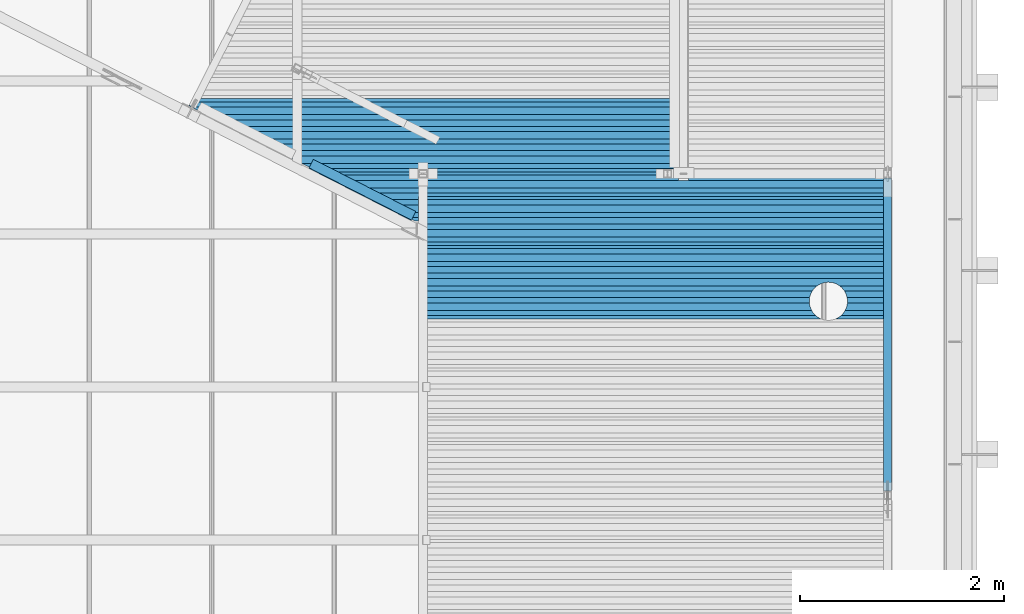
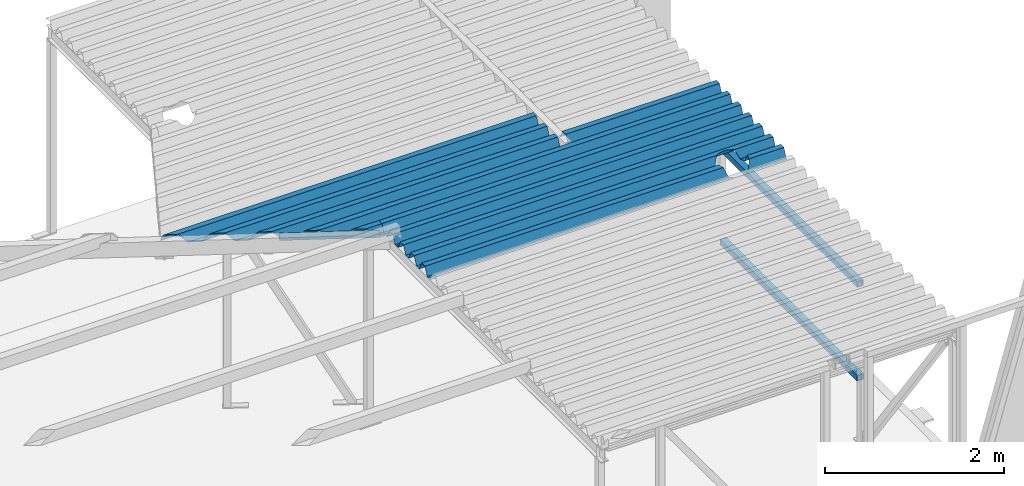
# One storey, part 9 of 30: 7 beams.
"""IFC2X3 building model written with IfcOpenShell, lengths in millimetres."""

from ifc_helpers import new_model, entity, si_unit, converted_unit, derived_unit, direction, frame, origin_with_axes, place, context, subcontext, project, spatial, faceted_brep, material, type_object, element, save


model = new_model("IFC2X3")

# Units and contexts
model_context = context("Model", 3, precision=0.01, world=frame((0.0, 4.29681676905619e-09, 0.0)), true_north=direction((4.01073788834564e-13, 1.0)))
plan_context = context("Plan", 3, precision=0.01, world=frame((0.0, 4.29681676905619e-09, 0.0)), true_north=direction((4.01073788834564e-13, 1.0)))
body_context = subcontext(model_context, "Body", "Model", "MODEL_VIEW")
ifc_project = project(units=[converted_unit("PLANEANGLEUNIT", "DEGREE", entity("IfcPositiveLengthMeasure", 0.0174532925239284), si_unit("PLANEANGLEUNIT", "RADIAN"), dimensions=[0, 0, 0, 0, 0, 0, 0]), si_unit("AREAUNIT", "SQUARE_METRE"), si_unit("LENGTHUNIT", "METRE", prefix="MILLI"), si_unit("MASSUNIT", "GRAM", prefix="KILO"), si_unit("POWERUNIT", "WATT"), si_unit("PRESSUREUNIT", "PASCAL"), si_unit("FORCEUNIT", "NEWTON", prefix="KILO"), si_unit("ELECTRICVOLTAGEUNIT", "VOLT"), si_unit("ELECTRICCURRENTUNIT", "AMPERE"), si_unit("THERMODYNAMICTEMPERATUREUNIT", "DEGREE_CELSIUS"), si_unit("TIMEUNIT", "SECOND"), si_unit("VOLUMEUNIT", "CUBIC_METRE"), derived_unit("LINEARVELOCITYUNIT", [(si_unit("LENGTHUNIT", "METRE"), 1), (si_unit("TIMEUNIT", "SECOND"), -1)]), derived_unit("VOLUMETRICFLOWRATEUNIT", [(si_unit("VOLUMEUNIT", "CUBIC_METRE"), 1), (si_unit("TIMEUNIT", "SECOND"), -1)]), derived_unit("THERMALTRANSMITTANCEUNIT", [(si_unit("POWERUNIT", "WATT"), 1), (si_unit("THERMODYNAMICTEMPERATUREUNIT", "KELVIN"), -1), (si_unit("AREAUNIT", "SQUARE_METRE"), -1)]), derived_unit("SOUNDPRESSUREUNIT", [(si_unit("PRESSUREUNIT", "PASCAL"), 1)])], contexts=[model_context, plan_context])

# Site, building, storey
site_placement = place(None, frame((0.0, -4.29681676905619e-09, 0.0), z_axis=(0.0, 0.0, 1.0), x_axis=(1.0, 0.0, 0.0)))
site = spatial("IfcSite", under=ifc_project, at=site_placement, Name="Gardermoen", CompositionType="ELEMENT")
building_placement = place(site_placement, frame((0.0, 4.29681676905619e-09, 0.0), z_axis=(0.0, 0.0, 1.0), x_axis=(1.0, 0.0, 0.0)))
building = spatial("IfcBuilding", under=site, at=building_placement, Name="TI", CompositionType="ELEMENT")
storey_placement = place(building_placement, origin_with_axes())
storey = spatial("IfcBuildingStorey", under=building, at=storey_placement, Name="F", CompositionType="ELEMENT", Elevation=0.0)

# Beams
ifc_material_1 = material(Name="STEEL/S355J2H")
beam_type_1 = type_object("IfcBeamType", Name="PLANNJA111", PredefinedType="NOTDEFINED")
beam_1_placement = place(storey_placement, frame((604290.830439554, 694827.497611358, 213755.499847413), z_axis=(0.0, 0.0, 1.0), x_axis=(1.0, 0.0, 0.0)))
element("IfcBeam", 1, at=beam_1_placement, inside=storey, type_object=beam_type_1, material=ifc_material_1, Name="STÅLBJELKE", ObjectType="PLANNJA111", context=body_context, shape_type="Brep", body=[
    faceted_brep([(4948.81135349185, 359.999999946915, -55.7499999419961), (4948.8113534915, 327.499999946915, -55.7499999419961), (170.115382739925, 327.499999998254, -55.7499999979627), (186.674957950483, 359.999999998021, -55.7499999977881), (4948.81135349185, 359.999999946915, -54.7499999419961), (186.674957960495, 359.999999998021, -54.7499999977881), (4948.81135349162, 328.133911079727, -54.7499999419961), (170.438376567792, 328.13391113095, -54.7499999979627), (4948.81135348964, 275.999999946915, 55.7500000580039), (4948.81135348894, 203.999999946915, 55.7500000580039), (4948.81135348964, 151.866088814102, -54.7499999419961), (4948.81135348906, 88.1339110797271, -54.7499999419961), (4948.81135348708, 35.9999999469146, 55.7500000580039), (4948.81135348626, -36.0000000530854, 55.7500000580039), (4948.81135348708, -88.1339111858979, -54.7499999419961), (4948.81135348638, -151.866088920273, -54.7499999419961), (4948.81135348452, -204.000000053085, 55.7500000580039), (4948.8113534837, -276.000000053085, 55.7500000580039), (4948.81135348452, -328.133911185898, -54.7499999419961), (4948.81135348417, -360.000000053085, -54.7499999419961), (4948.81135348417, -360.000000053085, -55.7499999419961), (4948.81135348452, -327.500000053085, -55.7499999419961), (4948.81135348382, -275.366088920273, 54.7500000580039), (4948.81135348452, -204.633911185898, 54.7500000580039), (4948.81135348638, -152.500000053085, -55.7499999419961), (4948.81135348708, -87.5000000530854, -55.7499999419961), (4948.81135348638, -35.3660889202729, 54.7500000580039), (4948.81135348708, 35.3660888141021, 54.7500000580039), (4948.81135348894, 87.4999999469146, -55.7499999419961), (4948.81135348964, 152.499999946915, -55.7499999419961), (4948.81135348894, 204.633911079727, 54.7500000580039), (4948.81135348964, 275.366088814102, 54.7500000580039), (1424.4019687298, -360.000000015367, -54.7499999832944), (1424.40196871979, -360.000000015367, -55.7499999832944), (1360.61713147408, -327.500000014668, -55.7499999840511), (1258.29857760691, -275.366088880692, 54.7500000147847), (1119.47887161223, -204.633911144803, 54.7500000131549), (1017.16031553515, -152.500000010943, -55.7499999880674), (889.590641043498, -87.5000000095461, -55.7499999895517), (787.27208717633, -35.3660888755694, 54.750000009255), (648.452381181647, 35.3660888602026, 54.7500000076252), (546.133825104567, 87.4999999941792, -55.7499999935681), (418.564150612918, 152.49999999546, -55.7499999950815), (316.24559674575, 204.63391112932, 54.7500000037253), (177.425890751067, 275.366088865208, 54.7500000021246), (150.533525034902, 289.068434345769, 25.7073070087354), (150.533525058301, 289.068434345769, 28.050908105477), (176.181770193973, 275.999999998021, 55.7500000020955), (317.4897173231, 203.999999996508, 55.7500000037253), (419.808271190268, 151.866088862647, -54.7499999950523), (544.889704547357, 88.1339111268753, -54.7499999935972), (647.208260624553, 35.9999999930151, 55.7500000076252), (788.516207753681, -36.0000000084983, 55.7500000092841), (890.834761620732, -88.1339111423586, -54.7499999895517), (1015.91619497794, -151.866088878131, -54.7499999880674), (1118.23475105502, -204.000000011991, 55.7500000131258), (1259.54269818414, -276.000000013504, 55.7500000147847), (1361.86125205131, -328.133911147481, -54.749999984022)], [[[0, 1, 2, 3]], [[4, 0, 3, 5]], [[6, 4, 5, 7]], [[8, 9, 10, 11, 12, 13, 14, 15, 16, 17, 18, 19, 20, 21, 22, 23, 24, 25, 26, 27, 28, 29, 30, 31, 1, 0, 4, 6]], [[20, 19, 32, 33]], [[21, 20, 33, 34]], [[22, 21, 34, 35]], [[23, 22, 35, 36]], [[24, 23, 36, 37]], [[25, 24, 37, 38]], [[26, 25, 38, 39]], [[27, 26, 39, 40]], [[28, 27, 40, 41]], [[29, 28, 41, 42]], [[30, 29, 42, 43]], [[31, 30, 43, 44]], [[2, 1, 31, 44, 45]], [[7, 5, 3, 2, 45, 46]], [[8, 6, 7, 46, 47]], [[9, 8, 47, 48]], [[10, 9, 48, 49]], [[11, 10, 49, 50]], [[12, 11, 50, 51]], [[13, 12, 51, 52]], [[14, 13, 52, 53]], [[15, 14, 53, 54]], [[16, 15, 54, 55]], [[17, 16, 55, 56]], [[18, 17, 56, 57]], [[19, 18, 57, 32]], [[56, 55, 54, 53, 52, 51, 50, 49, 48, 47, 46, 45, 44, 43, 42, 41, 40, 39, 38, 37, 36, 35, 34, 33, 32, 57]]]),
])
beam_2_placement = place(storey_placement, frame((605190.83043949, 694347.497611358, 213755.499847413), z_axis=(0.0, 0.0, 1.0), x_axis=(1.0, 0.0, 0.0)))
element("IfcBeam", 2, at=beam_2_placement, inside=storey, type_object=beam_type_1, material=ifc_material_1, Name="STÅLBJELKE", ObjectType="PLANNJA111", context=body_context, shape_type="Brep", body=[
    faceted_brep([(4048.81126292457, 35.3660973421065, 55.7500000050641), (4048.81126291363, 35.3660888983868, 54.7500000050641), (4048.81126058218, 87.5000000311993, -55.7499999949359), (4048.81125919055, 152.500000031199, -55.7499999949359), (4048.81125928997, 204.633911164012, 54.7500000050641), (4048.81125777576, 275.366088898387, 54.7500000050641), (4048.81125544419, 327.500000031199, -55.7499999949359), (4048.81125474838, 360.000000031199, -55.7499999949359), (4048.81125475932, 360.000000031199, -54.7499999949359), (4048.81125544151, 328.133911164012, -54.7499999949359), (4048.8112577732, 276.000000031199, 55.7500000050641), (4048.81125931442, 204.000000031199, 55.7500000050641), (4048.81125921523, 151.866088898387, -54.7499999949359), (4048.8112605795, 88.1339111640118, -54.7499999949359), (4048.81126291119, 36.0000000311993, 55.7500000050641), (4148.81125529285, 35.3660973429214, 55.7500000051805), (4148.81125528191, 35.3660888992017, 54.7500000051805), (4148.81125529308, 36.0000000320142, 55.7500000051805), (4148.81125407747, 88.1339111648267, -54.7499999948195), (4148.81125407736, 151.866088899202, -54.7499999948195), (4148.81125529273, 204.000000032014, 55.7500000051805), (4148.81125529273, 276.000000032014, 55.7500000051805), (4148.81125407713, 328.133911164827, -54.7499999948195), (4148.81125407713, 360.000000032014, -54.7499999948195), (4148.81125406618, 360.000000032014, -55.7499999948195), (4148.8112540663, 327.500000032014, -55.7499999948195), (4148.81125528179, 275.366088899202, 54.7500000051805), (4148.81125528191, 204.633911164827, 54.7500000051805), (4148.81125406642, 152.500000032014, -55.7499999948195), (4148.81125406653, 87.5000000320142, -55.7499999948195), (6135.31149587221, -359.999999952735, -55.7499999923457), (6135.31149587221, -359.999999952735, -54.7499999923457), (1466.45460485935, -359.999999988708, -54.7499999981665), (1466.45460484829, -359.999999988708, -55.7499999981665), (6135.31149587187, -327.499999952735, -55.7499999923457), (1402.66976382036, -327.499999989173, -55.7499999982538), (6135.3114958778, -275.366088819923, 54.7500000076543), (1300.35120400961, -275.366088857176, 54.7500000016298), (6135.31149587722, -204.633911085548, 54.7500000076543), (1161.53148978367, -204.633911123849, 54.7500000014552), (6135.31149587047, -152.499999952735, -55.7499999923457), (1059.21292751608, -152.499999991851, -55.7499999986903), (6135.31149587, -87.4999999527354, -55.7499999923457), (931.643245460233, -87.4999999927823, -55.7499999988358), (6135.31149587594, -35.3660888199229, 54.7500000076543), (829.324685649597, -35.3660888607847, 54.7500000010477), (6135.3114958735, 276.000000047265, 55.7500000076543), (6135.31149587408, 204.000000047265, 55.7500000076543), (6135.31149586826, 151.866088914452, -54.7499999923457), (6135.31149586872, 88.1339111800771, -54.7499999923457), (6135.31149587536, 36.0000000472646, 55.7500000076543), (6135.31149587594, -35.9999999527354, 55.7500000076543), (6135.31149587, -88.1339110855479, -54.7499999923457), (6135.31149587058, -151.866088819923, -54.7499999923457), (6135.31149587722, -203.999999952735, 55.7500000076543), (6135.3114958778, -275.999999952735, 55.7500000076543), (6135.31149587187, -328.133911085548, -54.7499999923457), (6135.31149587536, 35.3660889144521, 54.7500000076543), (6135.31149586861, 87.5000000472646, -55.7499999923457), (6135.31149586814, 152.500000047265, -55.7499999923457), (6135.31149587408, 204.633911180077, 54.7500000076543), (6135.3114958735, 275.366088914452, 54.7500000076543), (6135.31149586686, 327.500000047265, -55.7499999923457), (6135.31149586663, 360.000000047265, -55.7499999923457), (6135.31149586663, 360.000000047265, -54.7499999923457), (6135.31149586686, 328.133911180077, -54.7499999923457), (830.56880630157, -35.9999999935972, 55.7500000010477), (932.887366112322, -88.1339111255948, -54.7499999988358), (1057.96880688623, -151.866088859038, -54.7499999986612), (1160.28736915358, -203.999999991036, 55.7500000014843), (1301.5953246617, -275.999999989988, 55.7500000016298), (1403.91388447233, -328.133911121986, -54.7499999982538), (689.260850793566, 36.0000000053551, 55.7500000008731), (586.942288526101, 88.1339111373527, -54.7499999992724), (461.860847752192, 151.86608887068, -54.7499999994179), (359.54228794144, 204.000000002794, 55.7500000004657), (218.234332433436, 276.00000000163, 55.750000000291), (115.915770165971, 328.133911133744, -54.7499999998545), (53.3750497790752, 360.000000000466, -54.7499999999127), (53.3750497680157, 360.000000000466, -55.7499999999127), (117.159890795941, 327.500000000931, -55.7499999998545), (219.478453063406, 275.366088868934, 54.750000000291), (358.298167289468, 204.633911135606, 54.7500000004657), (460.61672710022, 152.500000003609, -55.7499999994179), (588.186409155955, 87.5000000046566, -55.7499999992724), (690.504971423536, 35.3660888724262, 54.7500000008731)], [[[0, 1, 2, 3, 4, 5, 6, 7, 8, 9, 10, 11, 12, 13, 14]], [[15, 16, 1, 0]], [[17, 18, 19, 20, 21, 22, 23, 24, 25, 26, 27, 28, 29, 16, 15]], [[30, 31, 32, 33]], [[34, 30, 33, 35]], [[36, 34, 35, 37]], [[38, 36, 37, 39]], [[40, 38, 39, 41]], [[42, 40, 41, 43]], [[44, 42, 43, 45]], [[46, 47, 48, 49, 50, 51, 52, 53, 54, 55, 56, 31, 30, 34, 36, 38, 40, 42, 44, 57, 58, 59, 60, 61, 62, 63, 64, 65]], [[52, 51, 66, 67]], [[53, 52, 67, 68]], [[54, 53, 68, 69]], [[55, 54, 69, 70]], [[56, 55, 70, 71]], [[31, 56, 71, 32]], [[70, 69, 68, 67, 66, 72, 73, 74, 75, 76, 77, 78, 79, 80, 81, 82, 83, 84, 85, 45, 43, 41, 39, 37, 35, 33, 32, 71]], [[73, 72, 14, 13]], [[74, 73, 13, 12]], [[75, 74, 12, 11]], [[76, 75, 11, 10]], [[77, 76, 10, 9]], [[78, 77, 9, 8]], [[79, 78, 8, 7]], [[80, 79, 7, 6]], [[81, 80, 6, 5]], [[82, 81, 5, 4]], [[83, 82, 4, 3]], [[84, 83, 3, 2]], [[85, 84, 2, 1]], [[57, 44, 45, 85, 1, 16]], [[58, 57, 16, 29]], [[59, 58, 29, 28]], [[60, 59, 28, 27]], [[61, 60, 27, 26]], [[62, 61, 26, 25]], [[63, 62, 25, 24]], [[64, 63, 24, 23]], [[65, 64, 23, 22]], [[46, 65, 22, 21]], [[47, 46, 21, 20]], [[48, 47, 20, 19]], [[49, 48, 19, 18]], [[50, 49, 18, 17]], [[14, 72, 66, 51, 50, 17, 15, 0]]]),
])
beam_3_placement = place(storey_placement, frame((606690.830439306, 693867.497611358, 213755.499847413), z_axis=(0.0, 0.0, 1.0), x_axis=(1.0, 0.0, 0.0)))
element("IfcBeam", 3, at=beam_3_placement, inside=storey, type_object=beam_type_1, material=ifc_material_1, Name="STÅLBJELKE", ObjectType="PLANNJA111", context=body_context, shape_type="Brep", body=[
    faceted_brep([(-7.79982656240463e-09, 360.000000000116, -54.75), (-7.21774995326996e-09, 328.133911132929, -54.75), (4635.31149585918, 328.133911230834, -54.7500000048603), (4635.31149585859, 360.000000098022, -54.7500000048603), (-2.44472175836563e-09, 276.000000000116, 55.75), (4635.31149586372, 276.000000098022, 55.7499999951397), (-1.28056854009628e-09, 204.000000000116, 55.75), (4635.31149586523, 204.000000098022, 55.7499999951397), (-4.42378222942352e-09, 151.866088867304, -54.75), (4635.31149586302, 151.866088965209, -54.7500000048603), (-3.37604433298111e-09, 88.1339111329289, -54.75), (4635.3114958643, 88.1339112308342, -54.7500000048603), (1.39698386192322e-09, 36.0000000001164, 55.75), (4635.31149586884, 36.0000000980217, 55.7499999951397), (2.56113708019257e-09, -35.9999999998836, 55.75), (4635.31149587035, -35.9999999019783, 55.7499999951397), (-5.82076609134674e-10, -88.1339111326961, -54.75), (4635.31149586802, -88.1339110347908, -54.7500000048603), (4.65661287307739e-10, -151.866088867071, -54.75), (4635.31149586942, -151.866088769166, -54.7500000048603), (5.23868948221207e-09, -203.999999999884, 55.75), (4635.31149587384, -203.999999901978, 55.7499999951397), (6.40284270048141e-09, -275.999999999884, 55.75), (4635.31149587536, -275.999999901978, 55.7499999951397), (3.25962901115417e-09, -328.133911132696, -54.75), (4635.31149587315, -328.133911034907, -54.7500000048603), (3.72529029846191e-09, -359.999999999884, -54.75), (4635.31149587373, -359.999999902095, -54.7500000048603), (3.72529029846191e-09, -359.999999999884, -55.75), (4635.31149587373, -359.999999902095, -55.7500000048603), (3.14321368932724e-09, -327.499999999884, -55.75), (4635.31149587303, -327.499999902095, -55.7500000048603), (6.40284270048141e-09, -275.366088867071, 54.75), (4635.31149587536, -275.366088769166, 54.7499999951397), (5.23868948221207e-09, -204.633911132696, 54.75), (4635.31149587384, -204.633911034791, 54.7499999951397), (3.49245965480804e-10, -152.499999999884, -55.75), (4635.3114958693, -152.499999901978, -55.7500000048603), (-6.98491930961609e-10, -87.4999999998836, -55.75), (4635.31149586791, -87.4999999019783, -55.7500000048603), (2.56113708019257e-09, -35.3660888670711, 54.75), (4635.31149587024, -35.3660887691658, 54.7499999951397), (1.39698386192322e-09, 35.3660888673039, 54.75), (4635.31149586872, 35.3660889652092, 54.7499999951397), (-3.49245965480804e-09, 87.5000000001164, -55.75), (4635.3114958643, 87.5000000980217, -55.7500000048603), (-4.54019755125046e-09, 152.500000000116, -55.75), (4635.3114958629, 152.500000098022, -55.7500000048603), (-1.28056854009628e-09, 204.633911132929, 54.75), (4635.31149586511, 204.633911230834, 54.7499999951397), (-2.44472175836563e-09, 275.366088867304, 54.75), (4635.31149586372, 275.366088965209, 54.7499999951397), (-7.33416527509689e-09, 327.500000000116, -55.75), (4635.31149585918, 327.500000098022, -55.7500000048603), (-7.79982656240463e-09, 360.000000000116, -55.75), (4635.31149585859, 360.000000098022, -55.7500000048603)], [[[0, 1, 2, 3]], [[1, 4, 5, 2]], [[4, 6, 7, 5]], [[6, 8, 9, 7]], [[8, 10, 11, 9]], [[10, 12, 13, 11]], [[12, 14, 15, 13]], [[14, 16, 17, 15]], [[16, 18, 19, 17]], [[18, 20, 21, 19]], [[20, 22, 23, 21]], [[22, 24, 25, 23]], [[24, 26, 27, 25]], [[26, 28, 29, 27]], [[28, 30, 31, 29]], [[30, 32, 33, 31]], [[32, 34, 35, 33]], [[34, 36, 37, 35]], [[36, 38, 39, 37]], [[38, 40, 41, 39]], [[40, 42, 43, 41]], [[42, 44, 45, 43]], [[44, 46, 47, 45]], [[46, 48, 49, 47]], [[48, 50, 51, 49]], [[50, 52, 53, 51]], [[52, 54, 55, 53]], [[54, 0, 3, 55]], [[5, 7, 9, 11, 13, 15, 17, 19, 21, 23, 25, 27, 29, 31, 33, 35, 37, 39, 41, 43, 45, 47, 49, 51, 53, 55, 3, 2]], [[54, 52, 50, 48, 46, 44, 42, 40, 38, 36, 34, 32, 30, 28, 26, 24, 22, 20, 18, 16, 14, 12, 10, 8, 6, 4, 1, 0]]]),
])
beam_4_placement = place(storey_placement, frame((606690.830439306, 693387.497611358, 213755.499847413), z_axis=(0.0, 0.0, 1.0), x_axis=(1.0, 0.0, 0.0)))
element("IfcBeam", 4, at=beam_4_placement, inside=storey, type_object=beam_type_1, material=ifc_material_1, Name="STÅLBJELKE", ObjectType="PLANNJA111", context=body_context, shape_type="Brep", body=[
    faceted_brep([(3945.03806789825, -359.999999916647, -54.7500000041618), (3945.03806788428, -359.999999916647, -55.7500000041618), (3913.83723271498, -343.322817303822, -55.7500000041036), (3913.83723272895, -343.322817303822, -54.7500000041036), (3894.55706294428, -327.499999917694, -55.7500000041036), (3885.4241236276, -320.004794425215, -39.863599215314), (3885.42412366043, -320.004794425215, -37.5199981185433), (3895.32948634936, -328.133911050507, -54.7500000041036), (3862.10608568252, -291.591698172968, 20.3591438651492), (3862.10608571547, -291.591698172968, 22.7027449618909), (3853.43331142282, -275.366088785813, 54.7499999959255), (3844.77921704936, -259.175427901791, 54.7499999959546), (3844.77921706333, -259.175427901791, 55.7499999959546), (3853.77214422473, -275.999999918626, 55.7499999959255), (3834.10937947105, -224.001722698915, 54.7499999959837), (3834.10937948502, -224.001722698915, 55.7499999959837), (3832.2018110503, -204.633911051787, 54.7499999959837), (3830.50660879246, -187.422288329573, 18.2692474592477), (3830.50660882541, -187.422288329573, 20.6128485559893), (3832.13937608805, -203.999999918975, 55.7499999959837), (3834.00857771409, -151.866088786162, -54.7500000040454), (3833.94614308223, -152.499999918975, -55.7500000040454), (3834.10935743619, -150.842851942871, -55.7500000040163), (3834.10935745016, -150.842851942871, -54.7500000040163), (3844.77917531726, -115.669140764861, -55.7500000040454), (3844.77917533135, -115.669140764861, -54.7500000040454), (3859.49705233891, -88.1339110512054, -54.7500000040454), (3859.83588465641, -87.4999999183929, -55.7500000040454), (3862.10602640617, -83.2528607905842, -46.7480114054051), (3862.10602643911, -83.2528607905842, -44.4044103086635), (3885.4240501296, -54.8397514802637, 13.4747593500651), (3885.42405016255, -54.8397514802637, 15.8183604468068), (3908.38034131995, -35.9999999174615, 55.7499999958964), (3909.15276381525, -35.3660887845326, 54.7499999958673), (3913.8371469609, -31.521712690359, 54.7499999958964), (3913.83714697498, -31.521712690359, 55.7499999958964), (3946.25341723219, -14.1948435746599, 54.7499999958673), (3946.25341724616, -14.1948435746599, 55.7499999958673), (3981.42712243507, -3.52500599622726, 54.749999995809), (3981.42712244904, -3.52500599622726, 55.749999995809), (4018.00655680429, 0.0777641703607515, 54.7499999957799), (4018.00655681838, 0.0777641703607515, 55.7499999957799), (4054.58599319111, -3.52498551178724, 54.7499999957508), (4054.58599320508, -3.52498551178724, 55.7499999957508), (4089.75970436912, -14.1948033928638, 54.7499999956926), (4089.75970438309, -14.1948033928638, 55.7499999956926), (4122.17598434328, -31.5216543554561, 54.7499999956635), (4122.17598435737, -31.5216543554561, 55.7499999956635), (4127.63286732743, -35.9999999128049, 55.7499999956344), (4126.86044392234, -35.366088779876, 54.7499999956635), (4150.58909307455, -54.8396772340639, 13.4749167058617), (4150.5890931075, -54.8396772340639, 15.8185178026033), (4173.90713101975, -83.2527734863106, -46.7478263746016), (4173.90713105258, -83.2527734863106, -44.40422527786), (4176.51615505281, -88.1339110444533, -54.7500000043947), (4176.17732225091, -87.4999999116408, -55.7500000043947), (4191.23400000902, -115.669043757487, -55.7500000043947), (4191.23400002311, -115.669043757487, -54.7500000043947), (4201.90383758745, -150.84274896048, -55.7500000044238), (4201.90383760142, -150.84274896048, -54.7500000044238), (4122.17607011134, -343.32275896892, -54.7500000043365), (4122.17607009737, -343.32275896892, -55.7500000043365), (4090.97516783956, -359.999999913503, -55.7500000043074), (4090.97516785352, -359.999999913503, -54.7500000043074), (4150.58916660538, -320.004720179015, -37.5198407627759), (4150.58916657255, -320.004720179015, -39.8634418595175), (4141.45614679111, -327.499999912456, -55.7500000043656), (4140.68372429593, -328.133911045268, -54.7500000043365), (4173.90719032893, -291.591610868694, 22.7029299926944), (4173.90719029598, -291.591610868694, 20.3593288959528), (4191.23404175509, -259.175330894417, 55.7499999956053), (4191.23404174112, -259.175330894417, 54.7499999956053), (4182.57990718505, -275.366088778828, 54.7499999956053), (4182.24107486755, -275.999999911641, 55.7499999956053), (4201.90385963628, -224.001619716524, 55.7499999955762), (4201.90385962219, -224.001619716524, 54.7499999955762), (4205.50660882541, -187.422183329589, 20.6126260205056), (4205.50660879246, -187.422183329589, 18.2690249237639), (4203.81140695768, -204.633911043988, 54.7499999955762), (4203.87384158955, -203.999999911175, 55.7499999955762), (4202.00462807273, -151.866088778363, -54.7500000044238), (4202.06706303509, -152.499999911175, -55.7500000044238), (-7.79982656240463e-09, 360.000000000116, -55.75), (-7.79982656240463e-09, 360.000000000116, -54.75), (4635.31149585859, 360.000000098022, -54.7500000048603), (4635.31149585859, 360.000000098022, -55.7500000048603), (-7.33416527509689e-09, 327.500000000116, -55.75), (4635.31149585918, 327.500000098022, -55.7500000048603), (-2.44472175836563e-09, 275.366088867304, 54.75), (4635.31149586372, 275.366088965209, 54.7499999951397), (-1.28056854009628e-09, 204.633911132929, 54.75), (4635.31149586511, 204.633911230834, 54.7499999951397), (-4.54019755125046e-09, 152.500000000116, -55.75), (4635.3114958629, 152.500000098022, -55.7500000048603), (-3.49245965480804e-09, 87.5000000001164, -55.75), (4635.3114958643, 87.5000000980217, -55.7500000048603), (1.39698386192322e-09, 35.3660888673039, 54.75), (4635.31149586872, 35.3660889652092, 54.7499999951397), (2.56113708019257e-09, -35.3660888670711, 54.75), (-6.98491930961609e-10, -87.4999999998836, -55.75), (3.49245965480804e-10, -152.499999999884, -55.75), (5.23868948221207e-09, -204.633911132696, 54.75), (6.40284270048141e-09, -275.366088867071, 54.75), (3.14321368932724e-09, -327.499999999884, -55.75), (3.72529029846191e-09, -359.999999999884, -55.75), (3.72529029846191e-09, -359.999999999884, -54.75), (3.25962901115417e-09, -328.133911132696, -54.75), (6.40284270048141e-09, -275.999999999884, 55.75), (5.23868948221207e-09, -203.999999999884, 55.75), (4.65661287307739e-10, -151.866088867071, -54.75), (-5.82076609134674e-10, -88.1339111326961, -54.75), (2.56113708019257e-09, -35.9999999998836, 55.75), (1.39698386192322e-09, 36.0000000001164, 55.75), (-3.37604433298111e-09, 88.1339111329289, -54.75), (-4.42378222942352e-09, 151.866088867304, -54.75), (-1.28056854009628e-09, 204.000000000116, 55.75), (-2.44472175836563e-09, 276.000000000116, 55.75), (-7.21774995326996e-09, 328.133911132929, -54.75), (4635.31149586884, 36.0000000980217, 55.7499999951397), (4635.3114958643, 88.1339112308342, -54.7500000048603), (4635.31149586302, 151.866088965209, -54.7500000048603), (4635.31149586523, 204.000000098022, 55.7499999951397), (4635.31149586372, 276.000000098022, 55.7499999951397), (4635.31149585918, 328.133911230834, -54.7500000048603), (4635.31149587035, -35.9999999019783, 55.7499999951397), (4635.31149586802, -88.1339110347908, -54.7500000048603), (4635.31149586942, -151.866088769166, -54.7500000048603), (4635.31149587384, -203.999999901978, 55.7499999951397), (4635.31149587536, -275.999999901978, 55.7499999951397), (4635.31149587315, -328.133911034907, -54.7500000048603), (4635.31149587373, -359.999999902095, -54.7500000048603), (4635.31149587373, -359.999999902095, -55.7500000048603), (4635.31149587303, -327.499999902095, -55.7500000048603), (4635.31149587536, -275.366088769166, 54.7499999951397), (4635.31149587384, -204.633911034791, 54.7499999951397), (4635.3114958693, -152.499999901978, -55.7500000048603), (4635.31149586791, -87.4999999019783, -55.7500000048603), (4635.31149587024, -35.3660887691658, 54.7499999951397)], [[[0, 1, 2, 3]], [[3, 2, 4, 5, 6, 7]], [[6, 5, 8, 9]], [[9, 8, 10, 11, 12, 13]], [[12, 11, 14, 15]], [[15, 14, 16, 17, 18, 19]], [[20, 18, 17, 21, 22, 23]], [[23, 22, 24, 25]], [[26, 25, 24, 27, 28, 29]], [[29, 28, 30, 31]], [[32, 31, 30, 33, 34, 35]], [[35, 34, 36, 37]], [[37, 36, 38, 39]], [[39, 38, 40, 41]], [[41, 40, 42, 43]], [[43, 42, 44, 45]], [[45, 44, 46, 47]], [[48, 47, 46, 49, 50, 51]], [[51, 50, 52, 53]], [[54, 53, 52, 55, 56, 57]], [[57, 56, 58, 59]], [[60, 61, 62, 63]], [[64, 65, 66, 61, 60, 67]], [[68, 69, 65, 64]], [[70, 71, 72, 69, 68, 73]], [[74, 75, 71, 70]], [[76, 77, 78, 75, 74, 79]], [[80, 59, 58, 81, 77, 76]], [[82, 83, 84, 85]], [[86, 82, 85, 87]], [[88, 86, 87, 89]], [[90, 88, 89, 91]], [[92, 90, 91, 93]], [[94, 92, 93, 95]], [[96, 94, 95, 97]], [[82, 86, 88, 90, 92, 94, 96, 98, 99, 100, 101, 102, 103, 104, 105, 106, 107, 108, 109, 110, 111, 112, 113, 114, 115, 116, 117, 83]], [[113, 112, 118, 119]], [[114, 113, 119, 120]], [[115, 114, 120, 121]], [[116, 115, 121, 122]], [[117, 116, 122, 123]], [[83, 117, 123, 84]], [[122, 121, 120, 119, 118, 124, 125, 126, 127, 128, 129, 130, 131, 132, 133, 134, 135, 136, 137, 97, 95, 93, 91, 89, 87, 85, 84, 123]], [[70, 73, 128, 127, 79, 74]], [[64, 67, 129, 128, 73, 68]], [[63, 130, 129, 67, 60]], [[131, 130, 63, 62]], [[132, 131, 62, 61, 66]], [[133, 132, 66, 65, 69, 72]], [[134, 133, 72, 71, 75, 78]], [[135, 134, 78, 77, 81]], [[56, 55, 136, 135, 81, 58]], [[50, 49, 137, 136, 55, 52]], [[44, 42, 40, 38, 36, 34, 33, 98, 96, 97, 137, 49, 46]], [[28, 27, 99, 98, 33, 30]], [[22, 21, 100, 99, 27, 24]], [[16, 101, 100, 21, 17]], [[102, 101, 16, 14, 11, 10]], [[103, 102, 10, 8, 5, 4]], [[104, 103, 4, 2, 1]], [[105, 104, 1, 0]], [[7, 106, 105, 0, 3]], [[9, 13, 107, 106, 7, 6]], [[15, 19, 108, 107, 13, 12]], [[109, 108, 19, 18, 20]], [[110, 109, 20, 23, 25, 26]], [[111, 110, 26, 29, 31, 32]], [[124, 118, 112, 111, 32, 35, 37, 39, 41, 43, 45, 47, 48]], [[125, 124, 48, 51, 53, 54]], [[126, 125, 54, 57, 59, 80]], [[127, 126, 80, 76, 79]]]),
])
ifc_material_2 = material(Name="STEEL/S355")
beam_type_2 = type_object("IfcBeamType", Name="L100*6", PredefinedType="NOTDEFINED")
beam_5_placement = place(storey_placement, frame((605638.77502984, 694547.220804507, 213743.999861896), z_axis=(0.45394858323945, 0.89102788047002, 7.61006163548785e-23), x_axis=(0.891027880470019, -0.45394858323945, 4.20000040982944e-08)))
element("IfcBeam", 5, at=beam_5_placement, inside=storey, type_object=beam_type_2, material=ifc_material_2, Name="STÅLBJELKE", ObjectType="L100*6", context=body_context, shape_type="Brep", body=[
    faceted_brep([(0.0, 50.0, -50.0), (0.0, 50.0, 50.0), (1126.20725704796, 50.0000000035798, 50.0000000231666), (1126.20725705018, 50.0000000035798, -49.9999999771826), (-2.73576006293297e-09, 44.0, 49.9999999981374), (1126.20725704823, 44.0000000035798, 50.0000000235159), (-6.40284270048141e-10, 44.0, -44.0000000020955), (1126.20725705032, 44.0000000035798, -43.9999999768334), (2.73576006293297e-09, -50.0, -43.9999999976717), (1126.2072570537, -49.9999999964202, -43.9999999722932), (0.0, -50.0, -50.0), (1126.20725705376, -49.9999999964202, -49.9999999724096)], [[[0, 1, 2, 3]], [[1, 4, 5, 2]], [[4, 6, 7, 5]], [[6, 8, 9, 7]], [[8, 10, 11, 9]], [[10, 0, 3, 11]], [[5, 7, 9, 11, 3, 2]], [[10, 8, 6, 4, 1, 0]]]),
])
beam_type_3 = type_object("IfcBeamType", Name="RHS80*8", PredefinedType="NOTDEFINED")
for number, where, z_axis, x_axis in (
    (6, (611289.645246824, 691340.072026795, 211760.000262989), (0.0, 0.0, 1.0), (0.0, 1.0, 0.0)),
    (7, (611289.645246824, 691340.072026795, 213040.000262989), (0.0, 0.0, 1.0), (0.0, 1.0, 0.0)),
):
    element("IfcBeam", number, at=place(storey_placement, frame(where, z_axis=z_axis, x_axis=x_axis)), inside=storey, type_object=beam_type_3, material=ifc_material_1, Name="STÅLBJELKE", ObjectType="RHS80*8", context=body_context, shape_type="Brep", body=[
        faceted_brep([(-4.65661287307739e-10, 32.0, -32.0), (-4.65661287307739e-10, -32.0, -32.0), (3070.00873535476, -32.0000001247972, -31.9999999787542), (3070.00873535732, 31.9999998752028, -31.9999999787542), (4.36557456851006e-10, -32.0, 32.0), (3070.00873535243, -32.0000001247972, 32.0000000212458), (4.36557456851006e-10, 32.0, 32.0), (3070.00873535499, 31.9999998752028, 32.0000000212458), (0.0, 40.0, -40.0), (0.0, 40.0, 40.0), (3070.00873535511, 39.9999998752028, 40.0000000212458), (3070.00873535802, 39.9999998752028, -39.9999999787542), (0.0, -40.0, 40.0), (3070.00873535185, -40.0000001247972, 40.0000000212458), (0.0, -40.0, -40.0), (3070.00873535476, -40.0000001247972, -39.9999999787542)], [[[0, 1, 2, 3]], [[1, 4, 5, 2]], [[4, 6, 7, 5]], [[6, 0, 3, 7]], [[8, 9, 10, 11]], [[9, 12, 13, 10]], [[12, 14, 15, 13]], [[14, 8, 11, 15]], [[13, 15, 11, 10], [5, 7, 3, 2]], [[14, 12, 9, 8], [6, 4, 1, 0]]]),
    ])

save(model, "model.ifc")
